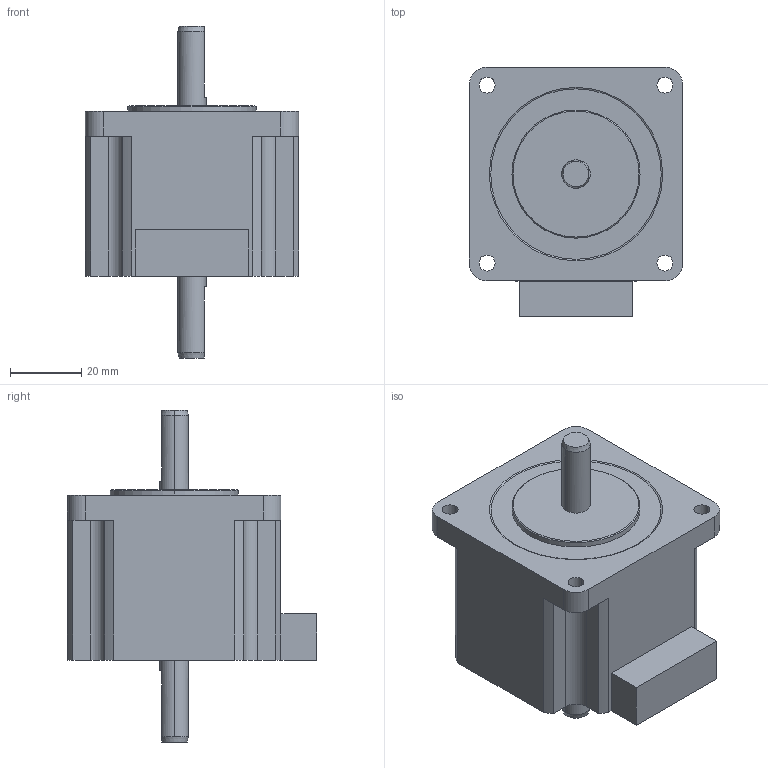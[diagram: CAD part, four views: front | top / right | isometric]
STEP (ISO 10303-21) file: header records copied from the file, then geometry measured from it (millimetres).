
FILE_DESCRIPTION (( 'STEP AP203' ), '1' );
FILE_NAME ('PMSA-U60D1D_3D.STEP', '2017-01-31T07:45:20', ( 'SKJ01072' ), ( '' ), 'SwSTEP 2.0', 'SolidWorks 2014', '' );
FILE_SCHEMA (( 'CONFIG_CONTROL_DESIGN' ));
Length unit declared in the file: millimetre
Products named in the file (1): PMSA-U60D1D_3D
Bounding box: 60 x 70 x 93.3 mm (x, y, z)
Volume: 156502.9 mm3; surface area: 20065.2 mm2
Topology: 1 solids, 1 shells, 73 faces, 198 edges, 131 vertices
Faces by surface type: plane 34, cylinder 30, cone 9
Entity records: 2452 total; most frequent: CARTESIAN_POINT 451, DIRECTION 417, ORIENTED_EDGE 396, EDGE_CURVE 198, AXIS2_PLACEMENT_3D 153, VERTEX_POINT 131, LINE 111, VECTOR 111
